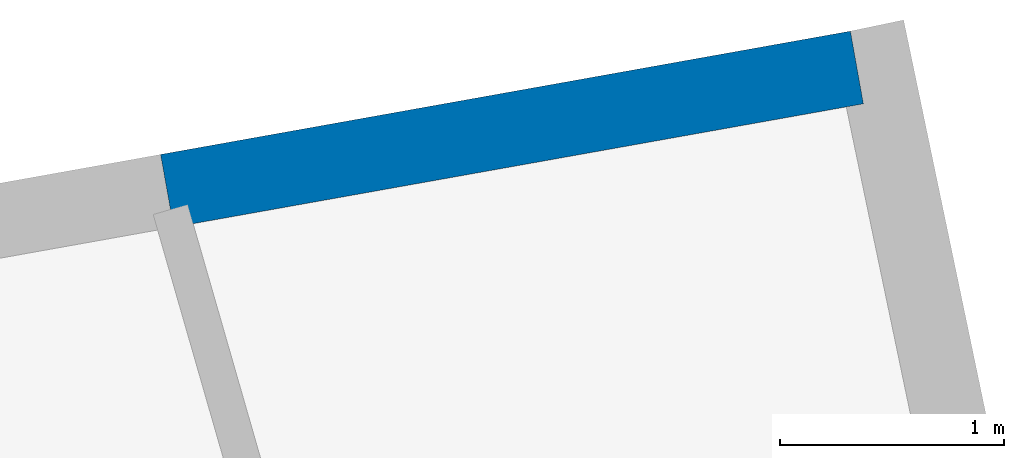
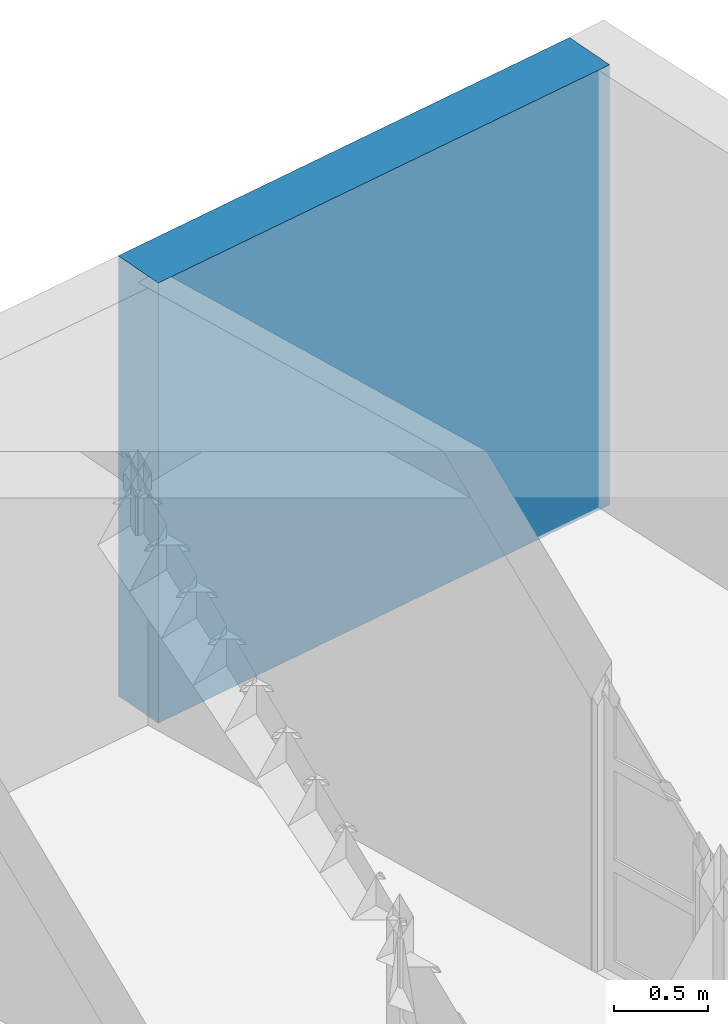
# One storey, part 12 of 16: 1 wall.
"""IFC4 building model written with IfcOpenShell, lengths in metres."""

from ifc_helpers import new_model, si_unit, frame, origin_with_axes, place, context, subcontext, project, spatial, polyline, outline, extrude, material, layer, layer_set, layer_usage, type_object, element, save


model = new_model("IFC4")

# Units and contexts
model_context = context("Model", 3, world=origin_with_axes())
body_context = subcontext(model_context, "Body", "Model", "MODEL_VIEW")
ifc_project = project(units=[si_unit("PLANEANGLEUNIT", "RADIAN"), si_unit("MASSUNIT", "GRAM", prefix="KILO"), si_unit("FORCEUNIT", "NEWTON", prefix="KILO"), si_unit("LENGTHUNIT", "METRE"), si_unit("AREAUNIT", "SQUARE_METRE"), si_unit("VOLUMEUNIT", "CUBIC_METRE")], contexts=[model_context, model_context])

# Site, building, storey
site_placement = place(None, origin_with_axes())
site = spatial("IfcSite", under=ifc_project, at=site_placement, Name="Site plot-9", CompositionType="ELEMENT")
building_placement = place(None, origin_with_axes())
building = spatial("IfcBuilding", under=site, at=building_placement, Name="Building plot-9", CompositionType="ELEMENT")
storey_placement = place(None, origin_with_axes())
storey = spatial("IfcBuildingStorey", under=building, at=storey_placement, Name="plot-9 0", CompositionType="ELEMENT", Elevation=0.0)

# Wall
ifc_material = material(Name="Masonry")
ifc_layer = layer(ifc_material, 0.33, ventilated=False)
ifc_layer_set = layer_set([ifc_layer], Name="party_0.08_0.25")
ifc_layer_usage = layer_usage(ifc_layer_set, "AXIS2", "POSITIVE", -0.25)
wall_type = type_object("IfcWallType", Name="party_0.08_0.25", PredefinedType="SOLIDWALL", material=ifc_layer_set)
wall_placement = place(storey_placement, frame((-14.4654974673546, 9.07405918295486, 0.0), z_axis=(0.0, 0.0, 1.0), x_axis=(-0.984393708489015, -0.175980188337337, 0.0)))
element("IfcWall", 1, at=wall_placement, inside=storey, type_object=wall_type, material=ifc_layer_usage, Name="party", context=body_context, shape_type="SweptSolid", body=[
    extrude(outline(polyline([(4.11629879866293e-16, 0.0800000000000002), (-7.61848032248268e-16, -0.25), (3.13039557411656, -0.25), (3.13039557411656, 0.0800000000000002), (4.11629879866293e-16, 0.0800000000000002)])), origin_with_axes(), (0.0, 0.0, 1.0), 2.85),
])

save(model, "model.ifc")
